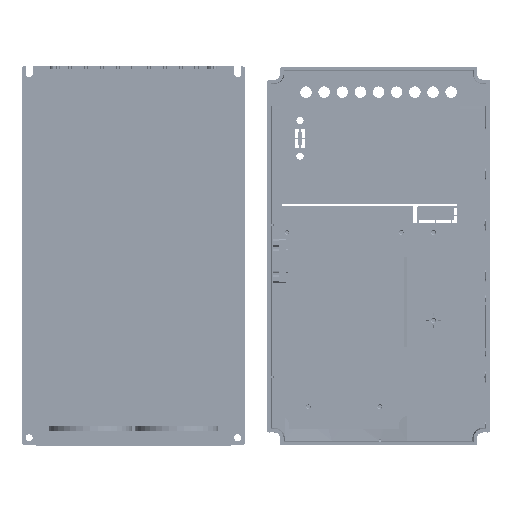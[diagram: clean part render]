
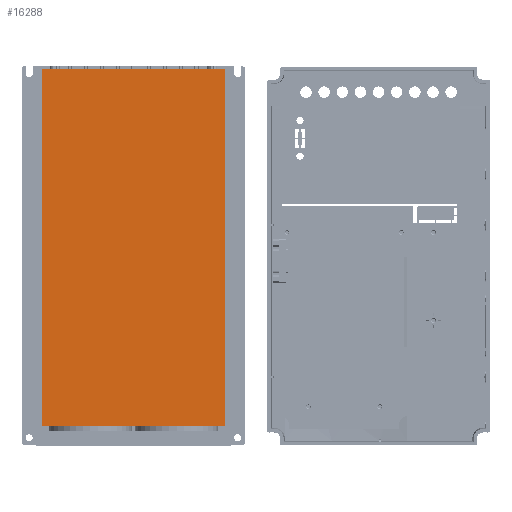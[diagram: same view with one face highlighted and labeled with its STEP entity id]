
A CAD part, front view. The second image highlights one B-rep face of the part: STEP entity #16288.
In plain terms, the highlighted planar face has unit normal (0, -1, -0.002).
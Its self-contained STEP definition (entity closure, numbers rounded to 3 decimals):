
#15897=DIRECTION('',(1.,0.,0.));
#15898=VECTOR('',#15897,128.5);
#15899=CARTESIAN_POINT('',(-64.25,0.,115.));
#15900=LINE('',#15899,#15898);
#15934=DIRECTION('',(0.,0.,1.));
#15935=VECTOR('',#15934,250.);
#15936=CARTESIAN_POINT('',(64.25,0.,-135.));
#15937=LINE('',#15936,#15935);
#16051=DIRECTION('',(0.,0.,-1.));
#16052=VECTOR('',#16051,250.);
#16053=CARTESIAN_POINT('',(-64.25,0.,115.));
#16054=LINE('',#16053,#16052);
#16125=DIRECTION('',(-1.,0.,0.));
#16126=VECTOR('',#16125,128.5);
#16127=CARTESIAN_POINT('',(64.25,0.,-135.));
#16128=LINE('',#16127,#16126);
#16185=CARTESIAN_POINT('',(-64.25,0.,115.));
#16186=CARTESIAN_POINT('',(64.25,0.,115.));
#16187=VERTEX_POINT('',#16185);
#16188=VERTEX_POINT('',#16186);
#16225=CARTESIAN_POINT('',(64.25,0.,-135.));
#16226=CARTESIAN_POINT('',(-64.25,0.,-135.));
#16227=VERTEX_POINT('',#16225);
#16228=VERTEX_POINT('',#16226);
#16273=CARTESIAN_POINT('',(0.,0.,0.));
#16274=DIRECTION('',(0.,1.,0.));
#16275=DIRECTION('',(1.,0.,0.));
#16276=AXIS2_PLACEMENT_3D('',#16273,#16274,#16275);
#16277=PLANE('',#16276);
#16279=ORIENTED_EDGE('',*,*,#16278,.F.);
#16281=ORIENTED_EDGE('',*,*,#16280,.T.);
#16283=ORIENTED_EDGE('',*,*,#16282,.F.);
#16285=ORIENTED_EDGE('',*,*,#16284,.T.);
#16286=EDGE_LOOP('',(#16279,#16281,#16283,#16285));
#16287=FACE_OUTER_BOUND('',#16286,.F.);
#16288=ADVANCED_FACE('',(#16287),#16277,.F.);
#16278=EDGE_CURVE('',#16227,#16188,#15937,.T.);
#16280=EDGE_CURVE('',#16227,#16228,#16128,.T.);
#16282=EDGE_CURVE('',#16187,#16228,#16054,.T.);
#16284=EDGE_CURVE('',#16187,#16188,#15900,.T.);
